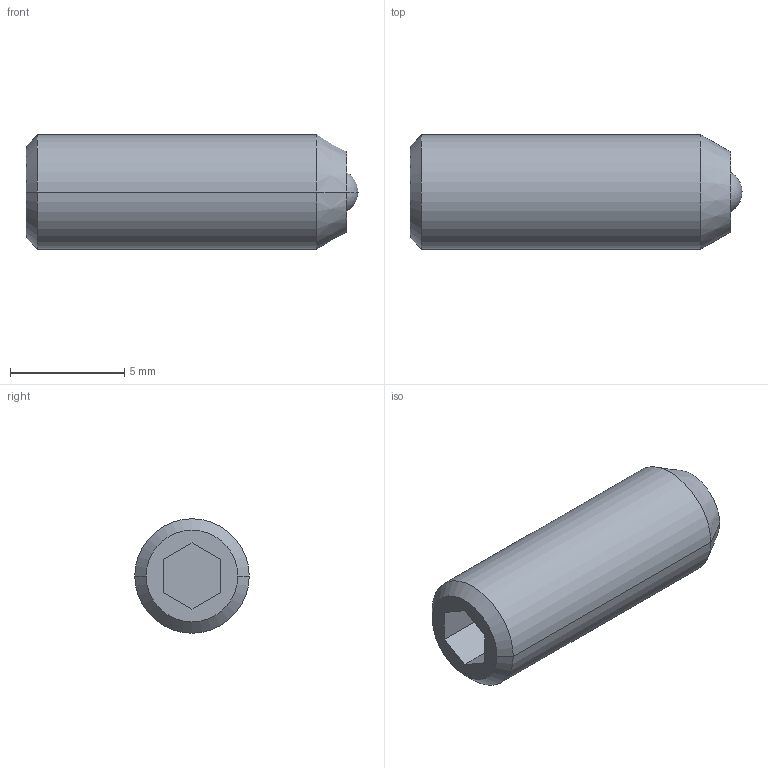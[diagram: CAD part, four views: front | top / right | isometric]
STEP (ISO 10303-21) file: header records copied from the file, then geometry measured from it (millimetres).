
FILE_DESCRIPTION (( 'STEP AP214' ), '1' );
FILE_NAME ('615.9-M5-KN.step', '2022-12-09T10:31:02', ( '' ), ( '' ), 'SwSTEP 2.0', 'SolidWorks 2022', '' );
FILE_SCHEMA (( 'AUTOMOTIVE_DESIGN' ));
Length unit declared in the file: millimetre
Products named in the file (1): 615.9-M5-KN
Bounding box: 14.5 x 5 x 5 mm (x, y, z)
Volume: 256 mm3; surface area: 262.2 mm2
Topology: 1 solids, 1 shells, 23 faces, 48 edges, 31 vertices
Faces by surface type: plane 11, cylinder 6, cone 4, sphere 2
Entity records: 685 total; most frequent: DIRECTION 116, CARTESIAN_POINT 103, ORIENTED_EDGE 96, EDGE_CURVE 48, AXIS2_PLACEMENT_3D 44, VERTEX_POINT 31, VECTOR 28, LINE 28
